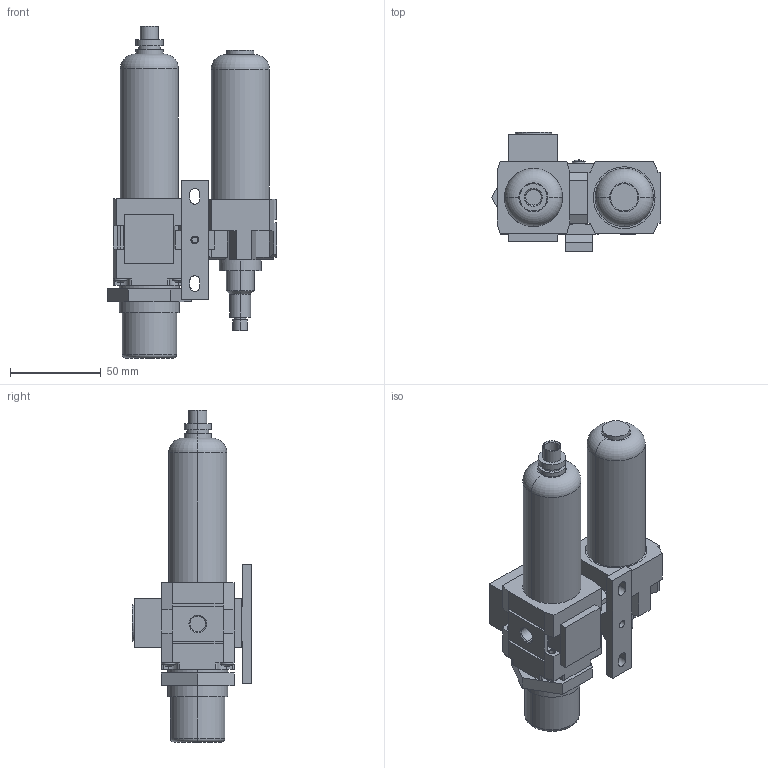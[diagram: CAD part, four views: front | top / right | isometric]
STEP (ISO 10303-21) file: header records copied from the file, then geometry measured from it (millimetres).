
FILE_DESCRIPTION (( 'STEP AP203' ), '1' );
FILE_NAME ('FRL200-01E-D.STEP', '2021-06-30T19:42:10', ( '' ), ( '' ), 'SwSTEP 2.0', 'SolidWorks 2019', '' );
FILE_SCHEMA (( 'CONFIG_CONTROL_DESIGN' ));
Length unit declared in the file: millimetre
Products named in the file (1): FRL200-01E-D
Bounding box: 93.09 x 65.7 x 182.8 mm (x, y, z)
Volume: 307531.2 mm3; surface area: 61231.7 mm2
Topology: 13 solids, 13 shells, 526 faces, 1261 edges, 805 vertices
Faces by surface type: plane 358, cylinder 110, cone 42, sphere 10, torus 6
Entity records: 15255 total; most frequent: DIRECTION 2686, CARTESIAN_POINT 2599, ORIENTED_EDGE 2522, EDGE_CURVE 1261, AXIS2_PLACEMENT_3D 900, LINE 886, VECTOR 886, VERTEX_POINT 805
